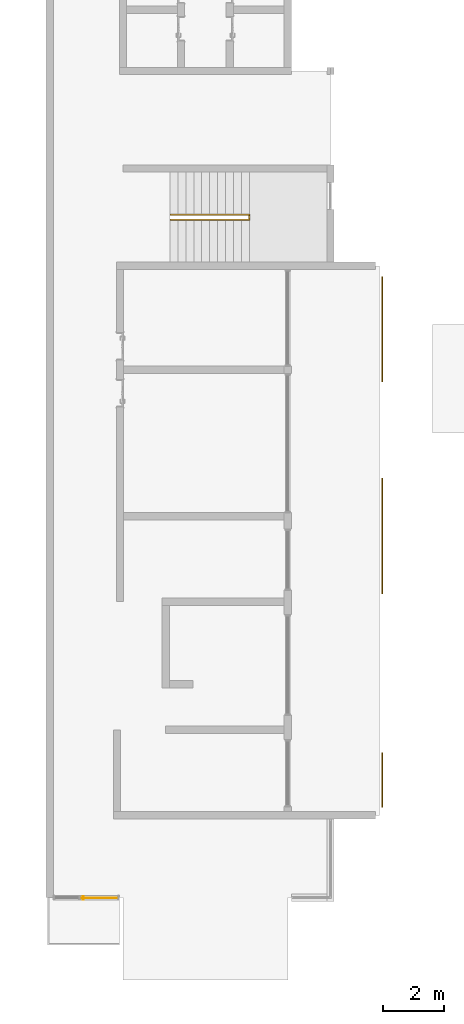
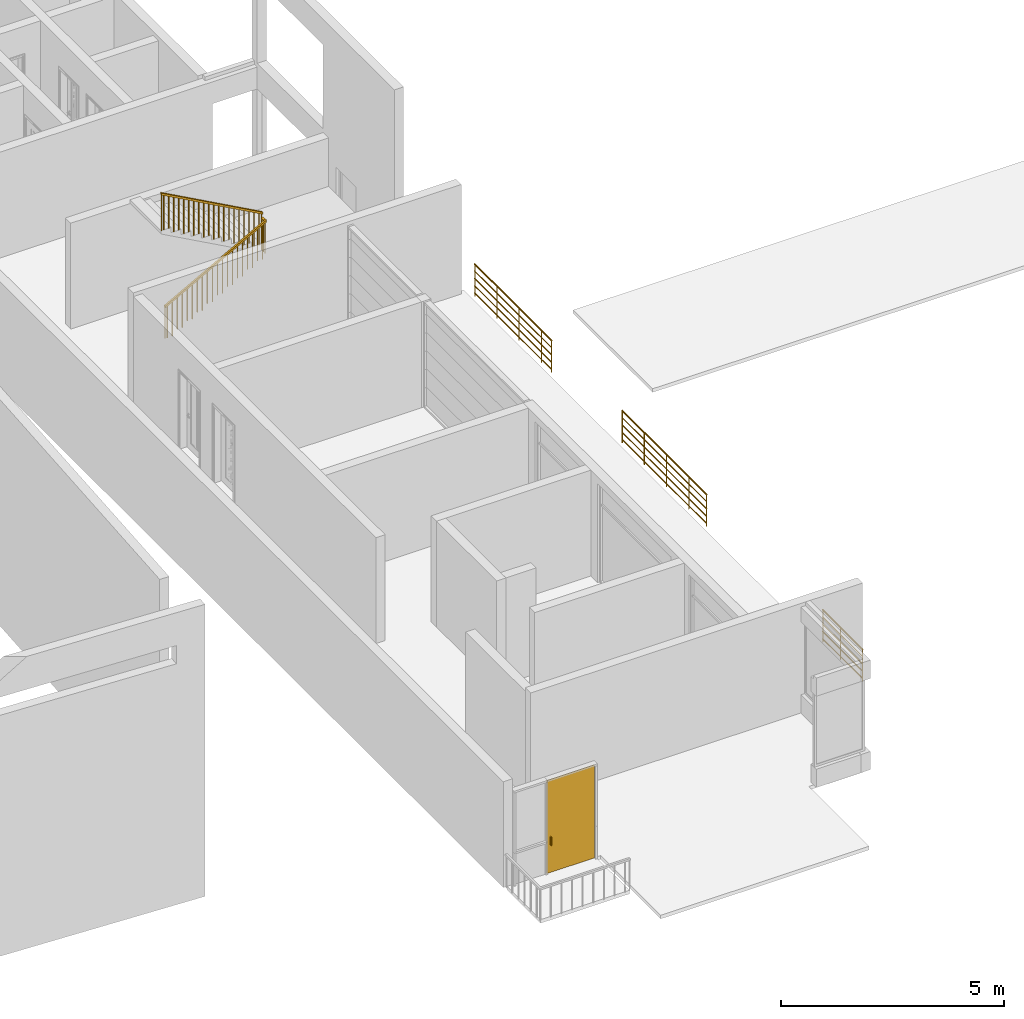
# One storey, part 13 of 16: 4 railings, 1 door, 2 elements without a shape of their own.
"""IFC2X3 building model written with IfcOpenShell, lengths in millimetres."""

from ifc_helpers import new_model, entity, si_unit, converted_unit, derived_unit, direction, frame, frame_2d, origin, origin_2d_with_axis, place, context, subcontext, project, spatial, polyline, rectangle, circle, outline, extrude, source, transform, mapped, material, material_list, type_object, type_shapes, element, aggregate, save


model = new_model("IFC2X3")

# Units and contexts
model_context = context("Model", 3, precision=0.01, world=origin(), true_north=direction((6.12303176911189e-17, 1.0)))
body_context = subcontext(model_context, "Body", "Model", "MODEL_VIEW")
ifc_project = project(units=[si_unit("LENGTHUNIT", "METRE", prefix="MILLI"), si_unit("AREAUNIT", "SQUARE_METRE"), si_unit("VOLUMEUNIT", "CUBIC_METRE"), converted_unit("PLANEANGLEUNIT", "DEGREE", entity("IfcRatioMeasure", 0.0174532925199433), si_unit("PLANEANGLEUNIT", "RADIAN"), dimensions=[0, 0, 0, 0, 0, 0, 0]), si_unit("MASSUNIT", "GRAM", prefix="KILO"), derived_unit("MASSDENSITYUNIT", [(si_unit("MASSUNIT", "GRAM", prefix="KILO"), 1), (si_unit("LENGTHUNIT", "METRE"), -3)]), si_unit("TIMEUNIT", "SECOND"), si_unit("FREQUENCYUNIT", "HERTZ"), si_unit("THERMODYNAMICTEMPERATUREUNIT", "DEGREE_CELSIUS"), derived_unit("THERMALTRANSMITTANCEUNIT", [(si_unit("MASSUNIT", "GRAM", prefix="KILO"), 1), (si_unit("THERMODYNAMICTEMPERATUREUNIT", "KELVIN"), -1), (si_unit("TIMEUNIT", "SECOND"), -3)]), derived_unit("VOLUMETRICFLOWRATEUNIT", [(si_unit("LENGTHUNIT", "METRE"), 3), (si_unit("TIMEUNIT", "SECOND"), -1)]), si_unit("ELECTRICCURRENTUNIT", "AMPERE"), si_unit("ELECTRICVOLTAGEUNIT", "VOLT"), si_unit("POWERUNIT", "WATT"), si_unit("FORCEUNIT", "NEWTON", prefix="KILO"), si_unit("ILLUMINANCEUNIT", "LUX"), si_unit("LUMINOUSFLUXUNIT", "LUMEN"), si_unit("LUMINOUSINTENSITYUNIT", "CANDELA"), derived_unit("USERDEFINED", [(si_unit("MASSUNIT", "GRAM", prefix="KILO"), -1), (si_unit("LENGTHUNIT", "METRE"), -2), (si_unit("TIMEUNIT", "SECOND"), 3), (si_unit("LUMINOUSFLUXUNIT", "LUMEN"), 1)]), derived_unit("LINEARVELOCITYUNIT", [(si_unit("LENGTHUNIT", "METRE"), 1), (si_unit("TIMEUNIT", "SECOND"), -1)]), si_unit("PRESSUREUNIT", "PASCAL"), derived_unit("USERDEFINED", [(si_unit("LENGTHUNIT", "METRE"), -2), (si_unit("MASSUNIT", "GRAM", prefix="KILO"), 1), (si_unit("TIMEUNIT", "SECOND"), -2)])], contexts=[model_context])

# Site, building, storey
site_placement = place(None, origin())
site = spatial("IfcSite", under=ifc_project, at=site_placement, Name="表面", CompositionType="ELEMENT")
building_placement = place(site_placement, origin())
building = spatial("IfcBuilding", under=site, at=building_placement, CompositionType="ELEMENT")
storey_placement = place(building_placement, frame((0.0, 0.0, 3000.0)))
storey = spatial("IfcBuildingStorey", under=building, at=storey_placement, Name="2F", CompositionType="ELEMENT", Elevation=3000.00000000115)

# Curtain wall, door
curtain_wall_type = type_object("IfcCurtainWallType", Name="幕墙:幕墙 2", PredefinedType="NOTDEFINED")
curtain_wall_placement = place(storey_placement, frame((0.0, 0.0, -3000.0)))
curtain_wall = element("IfcCurtainWall", 1, at=curtain_wall_placement, inside=storey, type_object=curtain_wall_type, Name="幕墙:幕墙 2", ObjectType="幕墙:幕墙 2")
ifc_material_1 = material(Name="金属 - 铝")
ifc_material_2 = material(Name="玻璃")
ifc_material_list_1 = material_list([ifc_material_1, ifc_material_2])
ifc_material_list_2 = material_list([ifc_material_1, ifc_material_2])
door_style = type_object("IfcDoorStyle", Name="幕墙单开玻璃门 900/2100", ConstructionType="NOTDEFINED", OperationType="SINGLE_SWING_LEFT", ParameterTakesPrecedence=False, Sizeable=False, material=ifc_material_list_2)
shared_shape = source(origin(), body_context, "Body", "SweptSolid", [
    extrude(rectangle(XDim=50.8, YDim=25.4, at=frame_2d((3.5527136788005e-15, 0.0), x_axis=(1.0, 0.0))), frame((-523.6, -38.0999999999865, 762.0), z_axis=(0.0, 0.0, 1.0), x_axis=(0.0, 1.0, 0.0)), (0.0, 0.0, 1.0), 228.6),
    extrude(rectangle(XDim=50.8, YDim=25.3999999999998, at=origin_2d_with_axis()), frame((-523.600000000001, 25.4000000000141, 762.0), z_axis=(0.0, 0.0, 1.0), x_axis=(0.0, -1.0, 0.0)), (0.0, 0.0, 1.0), 228.6),
    extrude(rectangle(XDim=1225.0, YDim=12.7000000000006, at=origin_2d_with_axis()), frame((0.0, -6.34999999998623, 0.0), z_axis=(0.0, 0.0, 1.0), x_axis=(-1.0, 0.0, 0.0)), (0.0, 0.0, 1.0), 2550.0),
])
type_shapes(door_style, [shared_shape])
door_placement = place(curtain_wall_placement, frame((-12812.7499126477, -29416.868426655, 3000.0)))
door = element("IfcDoor", 2, at=door_placement, type_object=door_style, material=ifc_material_list_1, Name="幕墙单开玻璃门:幕墙单开玻璃门 900/2100", ObjectType="幕墙单开玻璃门 900/2100", OverallHeight=2550.0, OverallWidth=1225.0, context=body_context, shape_type="MappedRepresentation", body=[
    mapped(shared_shape, transform((0.0, 0.0, 0.0), scale=1.0)),
])
aggregate(curtain_wall, [door])

# Stair, railing
stair_placement = place(storey_placement, origin())
stair = element("IfcStair", 3, at=stair_placement, inside=storey, ShapeType="NOTDEFINED")
ifc_material_3 = material(Name="不锈钢")
railing_1_placement = place(stair_placement, origin())
railing_1 = element("IfcRailing", 4, at=railing_1_placement, material=ifc_material_3, Name="栏杆扶手:900mm", ObjectType="栏杆扶手:900mm", PredefinedType="NOTDEFINED", context=body_context, shape_type="SweptSolid", body=[
    extrude(outline(polyline([(-469.441869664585, -10.0), (474.936375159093, -10.0), (474.936375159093, 10.0), (-480.4308806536, 10.0), (-469.441869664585, -10.0)])), frame((-10424.8499126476, -7037.44591297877, 3474.93637515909), z_axis=(0.0, 1.0, 0.0), x_axis=(0.0, 0.0, -1.0)), (0.0, 0.0, 1.0), 19.9999999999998),
    extrude(outline(polyline([(-433.727583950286, -10.0), (439.222089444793, -10.0), (439.222089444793, 10.0), (-444.716594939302, 10.0), (-433.727583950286, -10.0)])), frame((-10294.8499126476, -7037.44591297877, 3439.22208944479), z_axis=(0.0, 1.0, 0.0), x_axis=(0.0, 0.0, -1.0)), (0.0, 0.0, 1.0), 19.9999999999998),
    extrude(outline(polyline([(-469.441869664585, -10.0), (474.936375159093, -10.0), (474.936375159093, 10.0), (-480.4308806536, 10.0), (-469.441869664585, -10.0)])), frame((-10164.8499126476, -7037.44591297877, 3332.07923230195), z_axis=(0.0, 1.0, 0.0), x_axis=(0.0, 0.0, -1.0)), (0.0, 0.0, 1.0), 19.9999999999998),
    extrude(outline(polyline([(-433.727583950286, -10.0), (439.222089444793, -10.0), (439.222089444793, 10.0), (-444.716594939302, 10.0), (-433.727583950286, -10.0)])), frame((-10034.8499126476, -7037.44591297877, 3296.36494658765), z_axis=(0.0, 1.0, 0.0), x_axis=(0.0, 0.0, -1.0)), (0.0, 0.0, 1.0), 19.9999999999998),
    extrude(outline(polyline([(-469.441869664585, -10.0), (474.936375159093, -10.0), (474.936375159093, 10.0), (-480.4308806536, 10.0), (-469.441869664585, -10.0)])), frame((-9904.84991264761, -7037.44591297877, 3189.22208944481), z_axis=(0.0, 1.0, 0.0), x_axis=(0.0, 0.0, -1.0)), (0.0, 0.0, 1.0), 19.9999999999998),
    extrude(outline(polyline([(-433.727583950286, -10.0), (439.222089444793, -10.0), (439.222089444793, 10.0), (-444.716594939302, 10.0), (-433.727583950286, -10.0)])), frame((-9774.84991264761, -7037.44591297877, 3153.50780373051), z_axis=(0.0, 1.0, 0.0), x_axis=(0.0, 0.0, -1.0)), (0.0, 0.0, 1.0), 19.9999999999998),
    extrude(outline(polyline([(-469.441869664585, -10.0), (474.936375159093, -10.0), (474.936375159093, 10.0), (-480.4308806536, 10.0), (-469.441869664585, -10.0)])), frame((-9644.84991264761, -7037.44591297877, 3046.36494658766), z_axis=(0.0, 1.0, 0.0), x_axis=(0.0, 0.0, -1.0)), (0.0, 0.0, 1.0), 19.9999999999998),
    extrude(outline(polyline([(-433.727583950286, -10.0), (439.222089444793, -10.0), (439.222089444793, 10.0), (-444.716594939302, 10.0), (-433.727583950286, -10.0)])), frame((-9514.84991264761, -7037.44591297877, 3010.65066087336), z_axis=(0.0, 1.0, 0.0), x_axis=(0.0, 0.0, -1.0)), (0.0, 0.0, 1.0), 19.9999999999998),
    extrude(outline(polyline([(-469.441869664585, -10.0), (474.936375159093, -10.0), (474.936375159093, 10.0), (-480.4308806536, 10.0), (-469.441869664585, -10.0)])), frame((-9384.84991264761, -7037.44591297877, 2903.50780373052), z_axis=(0.0, 1.0, 0.0), x_axis=(0.0, 0.0, -1.0)), (0.0, 0.0, 1.0), 19.9999999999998),
    extrude(outline(polyline([(-433.727583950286, -10.0), (439.222089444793, -10.0), (439.222089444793, 10.0), (-444.716594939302, 10.0), (-433.727583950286, -10.0)])), frame((-9254.84991264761, -7037.44591297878, 2867.79351801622), z_axis=(0.0, 1.0, 0.0), x_axis=(0.0, 0.0, -1.0)), (0.0, 0.0, 1.0), 19.9999999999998),
    extrude(outline(polyline([(-469.441869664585, -10.0), (474.936375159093, -10.0), (474.936375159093, 10.0), (-480.4308806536, 10.0), (-469.441869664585, -10.0)])), frame((-9124.84991264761, -7037.44591297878, 2760.65066087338), z_axis=(0.0, 1.0, 0.0), x_axis=(0.0, 0.0, -1.0)), (0.0, 0.0, 1.0), 19.9999999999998),
    extrude(outline(polyline([(-433.727583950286, -10.0), (439.222089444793, -10.0), (439.222089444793, 10.0), (-444.716594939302, 10.0), (-433.727583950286, -10.0)])), frame((-8994.84991264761, -7037.44591297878, 2724.93637515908), z_axis=(0.0, 1.0, 0.0), x_axis=(0.0, 0.0, -1.0)), (0.0, 0.0, 1.0), 19.9999999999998),
    extrude(outline(polyline([(-469.441869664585, -10.0), (474.936375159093, -10.0), (474.936375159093, 10.0), (-480.4308806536, 10.0), (-469.441869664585, -10.0)])), frame((-8864.84991264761, -7037.44591297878, 2617.79351801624), z_axis=(0.0, 1.0, 0.0), x_axis=(0.0, 0.0, -1.0)), (0.0, 0.0, 1.0), 19.9999999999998),
    extrude(outline(polyline([(-433.727583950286, -10.0), (439.222089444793, -10.0), (439.222089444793, 10.0), (-444.716594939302, 10.0), (-433.727583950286, -10.0)])), frame((-8734.84991264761, -7037.44591297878, 2582.07923230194), z_axis=(0.0, 1.0, 0.0), x_axis=(0.0, 0.0, -1.0)), (0.0, 0.0, 1.0), 19.9999999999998),
    extrude(outline(polyline([(-469.441869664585, -10.0), (474.936375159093, -10.0), (474.936375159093, 10.0), (-480.4308806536, 10.0), (-469.441869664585, -10.0)])), frame((-8604.84991264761, -7037.44591297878, 2474.93637515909), z_axis=(0.0, 1.0, 0.0), x_axis=(0.0, 0.0, -1.0)), (0.0, 0.0, 1.0), 19.9999999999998),
    extrude(outline(polyline([(-433.727583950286, -10.0), (439.222089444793, -10.0), (439.222089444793, 10.0), (-444.716594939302, 10.0), (-433.727583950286, -10.0)])), frame((-8474.84991264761, -7037.44591297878, 2439.22208944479), z_axis=(0.0, 1.0, 0.0), x_axis=(0.0, 0.0, -1.0)), (0.0, 0.0, 1.0), 19.9999999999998),
    extrude(outline(polyline([(-469.441869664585, -10.0), (474.936375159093, -10.0), (474.936375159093, 10.0), (-480.4308806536, 10.0), (-469.441869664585, -10.0)])), frame((-8344.84991264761, -7037.44591297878, 2332.07923230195), z_axis=(0.0, 1.0, 0.0), x_axis=(0.0, 0.0, -1.0)), (0.0, 0.0, 1.0), 19.9999999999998),
    extrude(outline(polyline([(-433.727583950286, -10.0), (439.222089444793, -10.0), (439.222089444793, 10.0), (-444.716594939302, 10.0), (-433.727583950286, -10.0)])), frame((-8214.84991264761, -7037.44591297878, 2296.36494658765), z_axis=(0.0, 1.0, 0.0), x_axis=(0.0, 0.0, -1.0)), (0.0, 0.0, 1.0), 19.9999999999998),
    extrude(outline(polyline([(-469.441869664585, -10.0), (474.936375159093, -10.0), (474.936375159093, 10.0), (-480.4308806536, 10.0), (-469.441869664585, -10.0)])), frame((-8084.84991264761, -7037.44591297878, 2189.22208944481), z_axis=(0.0, 1.0, 0.0), x_axis=(0.0, 0.0, -1.0)), (0.0, 0.0, 1.0), 19.9999999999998),
    extrude(outline(polyline([(-433.727583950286, -10.0), (439.222089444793, -10.0), (439.222089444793, 10.0), (-444.716594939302, 10.0), (-433.727583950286, -10.0)])), frame((-7954.84991264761, -7037.44591297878, 2153.50780373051), z_axis=(0.0, 1.0, 0.0), x_axis=(0.0, 0.0, -1.0)), (0.0, 0.0, 1.0), 19.9999999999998),
    extrude(rectangle(XDim=19.9999999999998, YDim=19.9999999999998, at=origin_2d_with_axis()), frame((-7889.84991264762, -7123.24591297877, 1571.42857142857)), (0.0, 0.0, 1.0), 850.0),
    extrude(outline(polyline([(-475.046265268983, -10.0), (469.551759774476, -10.0), (480.540770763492, 10.0), (-475.046265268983, 10.0), (-475.046265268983, -10.0)])), frame((-7955.24991264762, -7198.24591297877, 1903.61769384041), z_axis=(0.0, 1.0, 0.0), x_axis=(0.0, 0.0, 1.0)), (0.0, 0.0, 1.0), 19.9999999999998),
    extrude(outline(polyline([(-439.331979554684, -10.0), (433.837474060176, -10.0), (444.826485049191, 10.0), (-439.331979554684, 10.0), (-439.331979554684, -10.0)])), frame((-8085.24991264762, -7198.24591297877, 1867.90340812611), z_axis=(0.0, 1.0, 0.0), x_axis=(0.0, 0.0, 1.0)), (0.0, 0.0, 1.0), 19.9999999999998),
    extrude(outline(polyline([(-475.046265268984, -10.0), (469.551759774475, -10.0), (480.540770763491, 10.0), (-475.046265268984, 10.0), (-475.046265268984, -10.0)])), frame((-8215.24991264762, -7198.24591297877, 1760.76055098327), z_axis=(0.0, 1.0, 0.0), x_axis=(0.0, 0.0, 1.0)), (0.0, 0.0, 1.0), 19.9999999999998),
    extrude(outline(polyline([(-439.331979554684, -10.0), (433.837474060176, -10.0), (444.826485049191, 10.0), (-439.331979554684, 10.0), (-439.331979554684, -10.0)])), frame((-8345.24991264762, -7198.24591297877, 1725.04626526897), z_axis=(0.0, 1.0, 0.0), x_axis=(0.0, 0.0, 1.0)), (0.0, 0.0, 1.0), 19.9999999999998),
    extrude(outline(polyline([(-475.046265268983, -10.0), (469.551759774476, -10.0), (480.540770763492, 10.0), (-475.046265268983, 10.0), (-475.046265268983, -10.0)])), frame((-8475.24991264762, -7198.24591297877, 1617.90340812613), z_axis=(0.0, 1.0, 0.0), x_axis=(0.0, 0.0, 1.0)), (0.0, 0.0, 1.0), 19.9999999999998),
    extrude(outline(polyline([(-439.331979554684, -10.0), (433.837474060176, -10.0), (444.826485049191, 10.0), (-439.331979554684, 10.0), (-439.331979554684, -10.0)])), frame((-8605.24991264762, -7198.24591297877, 1582.18912241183), z_axis=(0.0, 1.0, 0.0), x_axis=(0.0, 0.0, 1.0)), (0.0, 0.0, 1.0), 19.9999999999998),
    extrude(outline(polyline([(-475.046265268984, -10.0), (469.551759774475, -10.0), (480.540770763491, 10.0), (-475.046265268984, 10.0), (-475.046265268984, -10.0)])), frame((-8735.24991264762, -7198.24591297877, 1475.04626526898), z_axis=(0.0, 1.0, 0.0), x_axis=(0.0, 0.0, 1.0)), (0.0, 0.0, 1.0), 19.9999999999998),
    extrude(outline(polyline([(-439.331979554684, -10.0), (433.837474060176, -10.0), (444.826485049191, 10.0), (-439.331979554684, 10.0), (-439.331979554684, -10.0)])), frame((-8865.24991264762, -7198.24591297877, 1439.33197955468), z_axis=(0.0, 1.0, 0.0), x_axis=(0.0, 0.0, 1.0)), (0.0, 0.0, 1.0), 19.9999999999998),
    extrude(outline(polyline([(-475.046265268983, -10.0), (469.551759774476, -10.0), (480.540770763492, 10.0), (-475.046265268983, 10.0), (-475.046265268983, -10.0)])), frame((-8995.24991264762, -7198.24591297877, 1332.18912241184), z_axis=(0.0, 1.0, 0.0), x_axis=(0.0, 0.0, 1.0)), (0.0, 0.0, 1.0), 19.9999999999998),
    extrude(outline(polyline([(-439.331979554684, -10.0), (433.837474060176, -10.0), (444.826485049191, 10.0), (-439.331979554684, 10.0), (-439.331979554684, -10.0)])), frame((-9125.24991264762, -7198.24591297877, 1296.47483669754), z_axis=(0.0, 1.0, 0.0), x_axis=(0.0, 0.0, 1.0)), (0.0, 0.0, 1.0), 19.9999999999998),
    extrude(outline(polyline([(-475.046265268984, -10.0), (469.551759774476, -10.0), (480.540770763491, 10.0), (-475.046265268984, 10.0), (-475.046265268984, -10.0)])), frame((-9255.24991264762, -7198.24591297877, 1189.3319795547), z_axis=(0.0, 1.0, 0.0), x_axis=(0.0, 0.0, 1.0)), (0.0, 0.0, 1.0), 19.9999999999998),
    extrude(outline(polyline([(-439.331979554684, -10.0), (433.837474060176, -10.0), (444.826485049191, 10.0), (-439.331979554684, 10.0), (-439.331979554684, -10.0)])), frame((-9385.24991264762, -7198.24591297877, 1153.6176938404), z_axis=(0.0, 1.0, 0.0), x_axis=(0.0, 0.0, 1.0)), (0.0, 0.0, 1.0), 19.9999999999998),
    extrude(outline(polyline([(-475.046265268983, -10.0), (469.551759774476, -10.0), (480.540770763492, 10.0), (-475.046265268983, 10.0), (-475.046265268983, -10.0)])), frame((-9515.24991264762, -7198.24591297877, 1046.47483669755), z_axis=(0.0, 1.0, 0.0), x_axis=(0.0, 0.0, 1.0)), (0.0, 0.0, 1.0), 19.9999999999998),
    extrude(outline(polyline([(-439.331979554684, -10.0), (433.837474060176, -10.0), (444.826485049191, 10.0), (-439.331979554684, 10.0), (-439.331979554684, -10.0)])), frame((-9645.24991264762, -7198.24591297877, 1010.76055098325), z_axis=(0.0, 1.0, 0.0), x_axis=(0.0, 0.0, 1.0)), (0.0, 0.0, 1.0), 19.9999999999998),
    extrude(outline(polyline([(-475.046265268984, -10.0), (469.551759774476, -10.0), (480.540770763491, 10.0), (-475.046265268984, 10.0), (-475.046265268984, -10.0)])), frame((-9775.24991264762, -7198.24591297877, 903.617693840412), z_axis=(0.0, 1.0, 0.0), x_axis=(0.0, 0.0, 1.0)), (0.0, 0.0, 1.0), 19.9999999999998),
    extrude(outline(polyline([(-439.331979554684, -10.0), (433.837474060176, -10.0), (444.826485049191, 10.0), (-439.331979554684, 10.0), (-439.331979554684, -10.0)])), frame((-9905.24991264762, -7198.24591297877, 867.903408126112), z_axis=(0.0, 1.0, 0.0), x_axis=(0.0, 0.0, 1.0)), (0.0, 0.0, 1.0), 19.9999999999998),
    extrude(outline(polyline([(-475.046265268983, -10.0), (469.551759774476, -10.0), (480.540770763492, 10.0), (-475.046265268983, 10.0), (-475.046265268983, -10.0)])), frame((-10035.2499126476, -7198.24591297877, 760.760550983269), z_axis=(0.0, 1.0, 0.0), x_axis=(0.0, 0.0, 1.0)), (0.0, 0.0, 1.0), 19.9999999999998),
    extrude(outline(polyline([(-439.331979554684, -10.0), (433.837474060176, -10.0), (444.826485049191, 10.0), (-439.331979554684, 10.0), (-439.331979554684, -10.0)])), frame((-10165.2499126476, -7198.24591297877, 725.046265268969), z_axis=(0.0, 1.0, 0.0), x_axis=(0.0, 0.0, 1.0)), (0.0, 0.0, 1.0), 19.9999999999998),
    extrude(outline(polyline([(-475.046265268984, -10.0), (469.551759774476, -10.0), (480.540770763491, 10.0), (-475.046265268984, 10.0), (-475.046265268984, -10.0)])), frame((-10295.2499126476, -7198.24591297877, 617.903408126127), z_axis=(0.0, 1.0, 0.0), x_axis=(0.0, 0.0, 1.0)), (0.0, 0.0, 1.0), 19.9999999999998),
    extrude(outline(polyline([(-439.331979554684, -10.0), (433.837474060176, -10.0), (444.826485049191, 10.0), (-439.331979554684, 10.0), (-439.331979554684, -10.0)])), frame((-10425.2499126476, -7198.24591297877, 582.189122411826), z_axis=(0.0, 1.0, 0.0), x_axis=(0.0, 0.0, 1.0)), (0.0, 0.0, 1.0), 19.9999999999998),
    extrude(outline(polyline([(-487.299012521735, -10.0), (492.793518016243, -10.0), (492.793518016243, 10.0), (-498.28802351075, 10.0), (-487.299012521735, -10.0)])), frame((-7889.84991264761, -7037.44591297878, 2064.22208944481), z_axis=(0.0, 1.0, 0.0), x_axis=(0.0, 0.0, -1.0)), (0.0, 0.0, 1.0), 19.9999999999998),
    extrude(rectangle(XDim=19.9999999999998, YDim=19.9999999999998, at=origin_2d_with_axis()), frame((-7889.84991264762, -7188.24591297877, 1571.42857142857), z_axis=(0.0, 0.0, 1.0), x_axis=(0.0, -1.0, 0.0)), (0.0, 0.0, 1.0), 850.0),
    extrude(outline(polyline([(-421.474836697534, -10.0), (415.980331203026, -10.0), (426.969342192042, 10.0), (-421.474836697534, 10.0), (-421.474836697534, -10.0)])), frame((-7890.24991264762, -7198.24591297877, 1992.90340812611), z_axis=(0.0, 1.0, 0.0), x_axis=(0.0, 0.0, 1.0)), (0.0, 0.0, 1.0), 19.9999999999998),
    extrude(outline(polyline([(-484.661649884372, -10.0), (490.156155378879, -10.0), (490.156155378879, 10.0), (-495.650660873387, 10.0), (-484.661649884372, -10.0)])), frame((-10480.2499126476, -7037.44591297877, 3490.15615537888), z_axis=(0.0, 1.0, 0.0), x_axis=(0.0, 0.0, -1.0)), (0.0, 0.0, 1.0), 19.9999999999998),
    extrude(outline(polyline([(-424.222089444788, -10.0), (418.72758395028, -10.0), (429.716594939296, 10.0), (-424.222089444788, 10.0), (-424.222089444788, -10.0)])), frame((-10480.2499126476, -7198.24591297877, 567.079232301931), z_axis=(0.0, 1.0, 0.0), x_axis=(0.0, 0.0, 1.0)), (0.0, 0.0, 1.0), 19.9999999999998),
    extrude(outline(polyline([(-1484.06301094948, -25.0), (1511.535538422, -25.0), (1484.06301094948, 25.0), (-1511.535538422, 25.0), (-1484.06301094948, -25.0)])), frame((-9177.54991264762, -7213.24591297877, 1735.59571581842), z_axis=(0.0, 1.0, 0.0), x_axis=(0.876419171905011, 0.0, 0.481548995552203)), (0.0, 0.0, 1.0), 49.9999999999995),
    extrude(rectangle(XDim=110.799999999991, YDim=49.9999999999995, at=frame_2d((-5.43565192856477e-13, 0.0), x_axis=(1.0, 0.0))), frame((-7889.84991264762, -7107.84591297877, 2421.42857142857), z_axis=(0.0, 0.0, 1.0), x_axis=(0.0, 1.0, 0.0)), (0.0, 0.0, 1.0), 50.0000000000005),
    extrude(outline(polyline([(-1511.535538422, -25.0), (1484.06301094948, -25.0), (1511.535538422, 25.0), (-1484.06301094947, 25.0), (-1511.535538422, -25.0)])), frame((-9177.54991264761, -7052.44591297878, 3293.06824329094), z_axis=(0.0, 1.0, 0.0), x_axis=(-0.87641917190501, 0.0, 0.481548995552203)), (0.0, 0.0, 1.0), 49.9999999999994),
])
aggregate(stair, [railing_1])

# Railings
railing_2_placement = place(storey_placement, origin())
element("IfcRailing", 5, at=railing_2_placement, inside=storey, material=ifc_material_3, Name="栏杆扶手:900mm 圆管", ObjectType="栏杆扶手:900mm 圆管", PredefinedType="NOTDEFINED", context=body_context, shape_type="SweptSolid", body=[
    extrude(circle(Radius=12.5, at=origin_2d_with_axis()), frame((-3535.24991264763, -12047.8459129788, 0.0)), (0.0, 0.0, 1.0), 859.999999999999),
    extrude(circle(Radius=12.5, at=origin_2d_with_axis()), frame((-3535.24991264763, -11047.8459129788, 0.0)), (0.0, 0.0, 1.0), 859.999999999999),
    extrude(circle(Radius=12.5, at=origin_2d_with_axis()), frame((-3535.24991264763, -10047.8459129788, 0.0)), (0.0, 0.0, 1.0), 859.999999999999),
    extrude(circle(Radius=12.5, at=origin_2d_with_axis()), frame((-3535.24991264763, -12495.3459129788, 0.0)), (0.0, 0.0, 1.0), 859.999999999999),
    extrude(circle(Radius=12.5, at=origin_2d_with_axis()), frame((-3535.24991264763, -9060.34591297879, 0.0)), (0.0, 0.0, 1.0), 859.999999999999),
    extrude(circle(Radius=20.0, at=origin_2d_with_axis()), frame((-3535.24991264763, -12507.8459129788, 880.0), z_axis=(0.0, 1.0, 0.0), x_axis=(-1.0, 0.0, 0.0)), (0.0, 0.0, 1.0), 3460.00000000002),
    extrude(circle(Radius=15.0, at=origin_2d_with_axis()), frame((-3535.24991264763, -12507.8459129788, 685.0), z_axis=(0.0, 1.0, 0.0), x_axis=(-1.0, 0.0, 0.0)), (0.0, 0.0, 1.0), 3460.00000000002),
    extrude(circle(Radius=15.0, at=origin_2d_with_axis()), frame((-3535.24991264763, -12507.8459129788, 485.0), z_axis=(0.0, 1.0, 0.0), x_axis=(-1.0, 0.0, 0.0)), (0.0, 0.0, 1.0), 3460.00000000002),
    extrude(circle(Radius=15.0, at=origin_2d_with_axis()), frame((-3535.24991264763, -12507.8459129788, 285.0), z_axis=(0.0, 1.0, 0.0), x_axis=(-1.0, 0.0, 0.0)), (0.0, 0.0, 1.0), 3460.00000000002),
    extrude(circle(Radius=15.0, at=origin_2d_with_axis()), frame((-3535.24991264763, -12507.8459129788, 85.0), z_axis=(0.0, 1.0, 0.0), x_axis=(-1.0, 0.0, 0.0)), (0.0, 0.0, 1.0), 3460.00000000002),
])
railing_3_placement = place(storey_placement, origin())
element("IfcRailing", 6, at=railing_3_placement, inside=storey, material=ifc_material_3, Name="栏杆扶手:900mm 圆管", ObjectType="栏杆扶手:900mm 圆管", PredefinedType="NOTDEFINED", context=body_context, shape_type="SweptSolid", body=[
    extrude(circle(Radius=12.5, at=origin_2d_with_axis()), frame((-3535.24991264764, -18665.7457415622, 0.0)), (0.0, 0.0, 1.0), 859.999999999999),
    extrude(circle(Radius=12.5, at=origin_2d_with_axis()), frame((-3535.24991264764, -17665.7457415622, 0.0)), (0.0, 0.0, 1.0), 859.999999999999),
    extrude(circle(Radius=12.5, at=origin_2d_with_axis()), frame((-3535.24991264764, -16665.7457415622, 0.0)), (0.0, 0.0, 1.0), 859.999999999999),
    extrude(circle(Radius=12.5, at=origin_2d_with_axis()), frame((-3535.24991264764, -19453.2457415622, 0.0)), (0.0, 0.0, 1.0), 859.999999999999),
    extrude(circle(Radius=12.5, at=origin_2d_with_axis()), frame((-3535.24991264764, -15678.2457415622, 0.0)), (0.0, 0.0, 1.0), 859.999999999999),
    extrude(circle(Radius=20.0, at=origin_2d_with_axis()), frame((-3535.24991264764, -19465.7457415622, 880.0), z_axis=(0.0, 1.0, 0.0), x_axis=(-1.0, 0.0, 0.0)), (0.0, 0.0, 1.0), 3800.00000000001),
    extrude(circle(Radius=15.0, at=origin_2d_with_axis()), frame((-3535.24991264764, -19465.7457415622, 685.0), z_axis=(0.0, 1.0, 0.0), x_axis=(-1.0, 0.0, 0.0)), (0.0, 0.0, 1.0), 3800.00000000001),
    extrude(circle(Radius=15.0, at=origin_2d_with_axis()), frame((-3535.24991264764, -19465.7457415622, 485.0), z_axis=(0.0, 1.0, 0.0), x_axis=(-1.0, 0.0, 0.0)), (0.0, 0.0, 1.0), 3800.00000000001),
    extrude(circle(Radius=15.0, at=origin_2d_with_axis()), frame((-3535.24991264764, -19465.7457415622, 285.0), z_axis=(0.0, 1.0, 0.0), x_axis=(-1.0, 0.0, 0.0)), (0.0, 0.0, 1.0), 3800.00000000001),
    extrude(circle(Radius=15.0, at=origin_2d_with_axis()), frame((-3535.24991264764, -19465.7457415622, 85.0), z_axis=(0.0, 1.0, 0.0), x_axis=(-1.0, 0.0, 0.0)), (0.0, 0.0, 1.0), 3800.00000000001),
])
railing_4_placement = place(storey_placement, origin())
element("IfcRailing", 7, at=railing_4_placement, inside=storey, material=ifc_material_3, Name="栏杆扶手:900mm 圆管", ObjectType="栏杆扶手:900mm 圆管", PredefinedType="NOTDEFINED", context=body_context, shape_type="SweptSolid", body=[
    extrude(circle(Radius=12.5, at=origin_2d_with_axis()), frame((-3535.24991264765, -25465.7457415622, 0.0)), (0.0, 0.0, 1.0), 859.999999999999),
    extrude(circle(Radius=12.5, at=origin_2d_with_axis()), frame((-3535.24991264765, -24678.2457415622, 0.0)), (0.0, 0.0, 1.0), 859.999999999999),
    extrude(circle(Radius=12.5, at=origin_2d_with_axis()), frame((-3535.24991264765, -26453.2457415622, 0.0)), (0.0, 0.0, 1.0), 859.999999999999),
    extrude(circle(Radius=20.0, at=origin_2d_with_axis()), frame((-3535.24991264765, -26465.7457415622, 880.0), z_axis=(0.0, 1.0, 0.0), x_axis=(-1.0, 0.0, 0.0)), (0.0, 0.0, 1.0), 1800.0),
    extrude(circle(Radius=15.0, at=origin_2d_with_axis()), frame((-3535.24991264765, -26465.7457415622, 685.0), z_axis=(0.0, 1.0, 0.0), x_axis=(-1.0, 0.0, 0.0)), (0.0, 0.0, 1.0), 1800.0),
    extrude(circle(Radius=15.0, at=origin_2d_with_axis()), frame((-3535.24991264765, -26465.7457415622, 485.0), z_axis=(0.0, 1.0, 0.0), x_axis=(-1.0, 0.0, 0.0)), (0.0, 0.0, 1.0), 1800.0),
    extrude(circle(Radius=15.0, at=origin_2d_with_axis()), frame((-3535.24991264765, -26465.7457415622, 285.0), z_axis=(0.0, 1.0, 0.0), x_axis=(-1.0, 0.0, 0.0)), (0.0, 0.0, 1.0), 1800.0),
    extrude(circle(Radius=15.0, at=origin_2d_with_axis()), frame((-3535.24991264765, -26465.7457415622, 85.0), z_axis=(0.0, 1.0, 0.0), x_axis=(-1.0, 0.0, 0.0)), (0.0, 0.0, 1.0), 1800.0),
])

save(model, "model.ifc")
